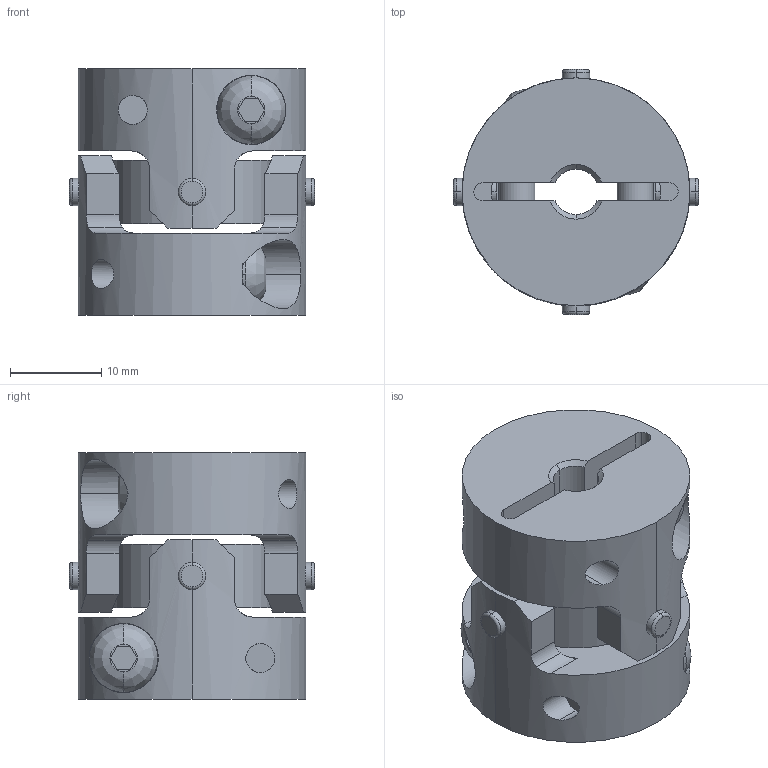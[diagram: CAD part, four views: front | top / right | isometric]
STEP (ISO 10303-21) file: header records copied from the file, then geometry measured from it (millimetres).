
FILE_DESCRIPTION((''),'2;1');
FILE_NAME('UA-25C-5×9.525.stp','2013-05-16T09:28:57',(''),(''),'AutoCAD STEP 2000i','AutoCAD 2000i',', , ');
FILE_SCHEMA(('CONFIG_CONTROL_DESIGN'));
Length unit declared in the file: millimetre
Products named in the file (7): UA-25C-5×9; 忣兜1; UA-2502-D09; BTN-M4; UA-2502-D05-1; UA-2502-D05; UA25-SEN
Assembly tree (8 placements, depth 3):
  UA-25C-5×9
    忣兜1
    UA-2502-D09
      BTN-M4
    UA-2502-D05-1
      BTN-M4
    UA-2502-D05
      BTN-M4
    UA25-SEN
Bounding box: 26.89 x 26.89 x 27 mm (x, y, z)
Volume: 9181.8 mm3; surface area: 6394.7 mm2
Topology: 1 solids, 1 shells, 208 faces, 562 edges, 368 vertices
Faces by surface type: cylinder 96, plane 80, cone 16, bspline 8, torus 8
Entity records: 8385 total; most frequent: CARTESIAN_POINT 2983, ORIENTED_EDGE 1124, DIRECTION 1084, EDGE_CURVE 562, AXIS2_PLACEMENT_3D 417, VERTEX_POINT 368, VECTOR 250, LINE 250
